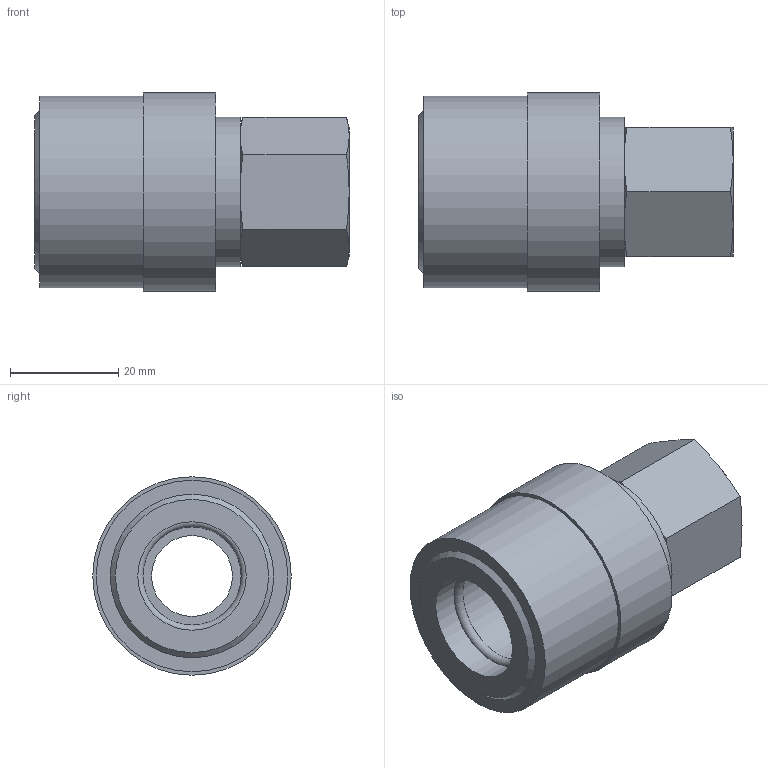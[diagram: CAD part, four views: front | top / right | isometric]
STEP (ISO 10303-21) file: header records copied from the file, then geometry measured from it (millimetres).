
FILE_DESCRIPTION(/* description */ ('STEP AP214'),/* implementation_level */ '2;1');
FILE_NAME(/* name */ 'SK500',/* time_stamp */ '2024-12-19T09:34:02+01:00',/* author */ ('License CC BY-ND 4.0'),/* organization */ ('CADENAS'),/* preprocessor_version */ 'ST-DEVELOPER v19.3',/* originating_system */ 'PARTsolutions',/* authorisation */ ' ');
FILE_SCHEMA (('AUTOMOTIVE_DESIGN {1 0 10303 214 3 1 1}'));
Length unit declared in the file: millimetre
Products named in the file (1): SK500
Bounding box: 57.95 x 36.58 x 36.58 mm (x, y, z)
Volume: 31204 mm3; surface area: 10758.3 mm2
Topology: 1 solids, 1 shells, 36 faces, 70 edges, 41 vertices
Faces by surface type: cone 15, plane 13, cylinder 7, torus 1
Full cylindrical faces by diameter (mm): 14.905 x1, 18.631 x1, 20 x2, 27.503 x1, 35.306 x1, 36.576 x1
Entity records: 910 total; most frequent: CARTESIAN_POINT 209, DIRECTION 138, ORIENTED_EDGE 118, AXIS2_PLACEMENT_3D 66, EDGE_CURVE 59, EDGE_LOOP 54, FACE_BOUND 54, VERTEX_POINT 41
